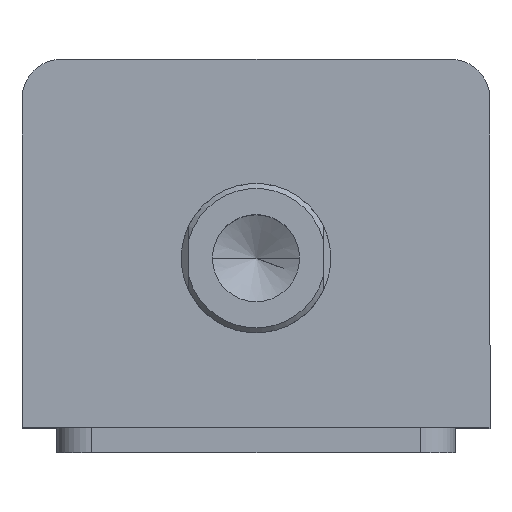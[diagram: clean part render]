
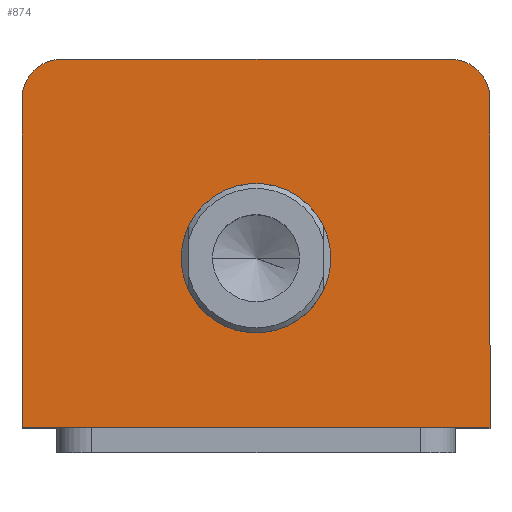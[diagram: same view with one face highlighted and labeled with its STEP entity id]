
A CAD part, top view. The second image highlights one B-rep face of the part: STEP entity #874.
In plain terms, the highlighted planar face has unit normal (0, 0, 1).
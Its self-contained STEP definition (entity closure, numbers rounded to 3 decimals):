
#10 = CARTESIAN_POINT ( 'NONE',  ( -47., 37., 135. ) ) ;
#12 = DIRECTION ( 'NONE',  ( -1., 0., 0. ) ) ;
#35 = CARTESIAN_POINT ( 'NONE',  ( 47., 37., 135. ) ) ;
#36 = DIRECTION ( 'NONE',  ( 0., 1., 0. ) ) ;
#74 = CARTESIAN_POINT ( 'NONE',  ( 39., 29., 135. ) ) ;
#75 = DIRECTION ( 'NONE',  ( 0., 0., 1. ) ) ;
#76 = DIRECTION ( 'NONE',  ( 1., 0., 0. ) ) ;
#102 = CARTESIAN_POINT ( 'NONE',  ( -39., 29., 135. ) ) ;
#103 = DIRECTION ( 'NONE',  ( 0., 0., 1. ) ) ;
#104 = DIRECTION ( 'NONE',  ( 1., 0., 0. ) ) ;
#120 = CARTESIAN_POINT ( 'NONE',  ( -47., -37., 135. ) ) ;
#121 = DIRECTION ( 'NONE',  ( 1., 0., 0. ) ) ;
#136 = CARTESIAN_POINT ( 'NONE',  ( -47., 37., 135. ) ) ;
#137 = DIRECTION ( 'NONE',  ( 0., -1., 0. ) ) ;
#153 = CARTESIAN_POINT ( 'NONE',  ( 0., -3., 135. ) ) ;
#154 = DIRECTION ( 'NONE',  ( 0., 0., 1. ) ) ;
#155 = DIRECTION ( 'NONE',  ( 1., 0., 0. ) ) ;
#235 = CARTESIAN_POINT ( 'NONE',  ( 39., 37., 135. ) ) ;
#246 = CARTESIAN_POINT ( 'NONE',  ( 47., 29., 135. ) ) ;
#250 = CARTESIAN_POINT ( 'NONE',  ( -15., -3., 135. ) ) ;
#262 = CARTESIAN_POINT ( 'NONE',  ( -47., -37., 135. ) ) ;
#333 = CARTESIAN_POINT ( 'NONE',  ( -39., 37., 135. ) ) ;
#338 = CARTESIAN_POINT ( 'NONE',  ( -47., 29., 135. ) ) ;
#343 = CARTESIAN_POINT ( 'NONE',  ( 47., -37., 135. ) ) ;
#357 = CARTESIAN_POINT ( 'NONE',  ( 15., -3., 135. ) ) ;
#594 = DIRECTION ( 'NONE',  ( 1., 0., 0. ) ) ;
#596 = DIRECTION ( 'NONE',  ( 0., 0., 1. ) ) ;
#604 = PLANE ( 'NONE',  #1955 ) ;
#605 = CARTESIAN_POINT ( 'NONE',  ( 0., 0., 135. ) ) ;
#698 = AXIS2_PLACEMENT_3D ( 'NONE', #2281, #2280, #2279 ) ;
#718 = AXIS2_PLACEMENT_3D ( 'NONE', #74, #75, #76 ) ;
#726 = AXIS2_PLACEMENT_3D ( 'NONE', #102, #103, #104 ) ;
#731 = AXIS2_PLACEMENT_3D ( 'NONE', #153, #154, #155 ) ;
#874 = ADVANCED_FACE ( 'NONE', ( #2203, #2395 ), #604, .T. ) ;
#1004 = ORIENTED_EDGE ( 'NONE', *, *, #1866, .T. ) ;
#1008 = ORIENTED_EDGE ( 'NONE', *, *, #1849, .T. ) ;
#1009 = ORIENTED_EDGE ( 'NONE', *, *, #1882, .T. ) ;
#1010 = ORIENTED_EDGE ( 'NONE', *, *, #1890, .T. ) ;
#1011 = ORIENTED_EDGE ( 'NONE', *, *, #1876, .T. ) ;
#1012 = ORIENTED_EDGE ( 'NONE', *, *, #1837, .T. ) ;
#1013 = ORIENTED_EDGE ( 'NONE', *, *, #1805, .F. ) ;
#1014 = ORIENTED_EDGE ( 'NONE', *, *, #1899, .F. ) ;
#1214 = EDGE_LOOP ( 'NONE', ( #1014, #1013 ) ) ;
#1275 = EDGE_LOOP ( 'NONE', ( #1012, #1011, #1010, #1009, #1008, #1004 ) ) ;
#1397 = CIRCLE ( 'NONE', #698, 15. ) ;
#1449 = LINE ( 'NONE', #10, #1452 ) ;
#1452 = VECTOR ( 'NONE', #12, 1000. ) ;
#1472 = LINE ( 'NONE', #35, #1475 ) ;
#1475 = VECTOR ( 'NONE', #36, 1000. ) ;
#1497 = CIRCLE ( 'NONE', #718, 8. ) ;
#1511 = CIRCLE ( 'NONE', #726, 8. ) ;
#1519 = LINE ( 'NONE', #120, #1522 ) ;
#1522 = VECTOR ( 'NONE', #121, 1000. ) ;
#1535 = LINE ( 'NONE', #136, #1538 ) ;
#1538 = VECTOR ( 'NONE', #137, 1000. ) ;
#1552 = CIRCLE ( 'NONE', #731, 15. ) ;
#1805 = EDGE_CURVE ( 'NONE', #2564, #2671, #1397, .T. ) ;
#1837 = EDGE_CURVE ( 'NONE', #2546, #2647, #1449, .T. ) ;
#1849 = EDGE_CURVE ( 'NONE', #2657, #2560, #1472, .T. ) ;
#1866 = EDGE_CURVE ( 'NONE', #2560, #2546, #1497, .T. ) ;
#1876 = EDGE_CURVE ( 'NONE', #2647, #2652, #1511, .T. ) ;
#1882 = EDGE_CURVE ( 'NONE', #2576, #2657, #1519, .T. ) ;
#1890 = EDGE_CURVE ( 'NONE', #2652, #2576, #1535, .T. ) ;
#1899 = EDGE_CURVE ( 'NONE', #2671, #2564, #1552, .T. ) ;
#1955 = AXIS2_PLACEMENT_3D ( 'NONE', #605, #596, #594 ) ;
#2203 = FACE_BOUND ( 'NONE', #1214, .T. ) ;
#2279 = DIRECTION ( 'NONE',  ( 1., 0., 0. ) ) ;
#2280 = DIRECTION ( 'NONE',  ( 0., 0., 1. ) ) ;
#2281 = CARTESIAN_POINT ( 'NONE',  ( 0., -3., 135. ) ) ;
#2395 = FACE_OUTER_BOUND ( 'NONE', #1275, .T. ) ;
#2546 = VERTEX_POINT ( 'NONE', #235 ) ;
#2560 = VERTEX_POINT ( 'NONE', #246 ) ;
#2564 = VERTEX_POINT ( 'NONE', #250 ) ;
#2576 = VERTEX_POINT ( 'NONE', #262 ) ;
#2647 = VERTEX_POINT ( 'NONE', #333 ) ;
#2652 = VERTEX_POINT ( 'NONE', #338 ) ;
#2657 = VERTEX_POINT ( 'NONE', #343 ) ;
#2671 = VERTEX_POINT ( 'NONE', #357 ) ;
